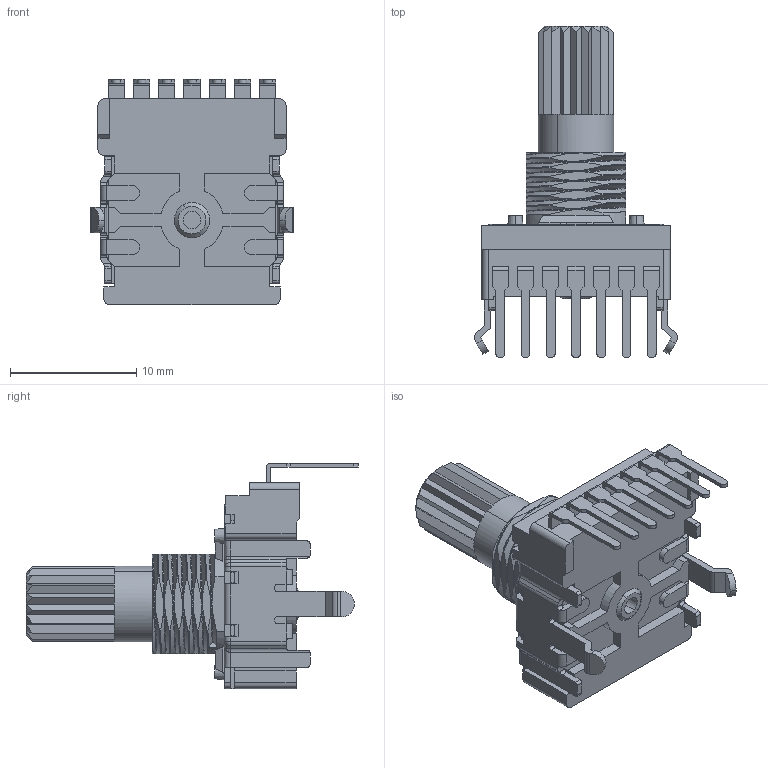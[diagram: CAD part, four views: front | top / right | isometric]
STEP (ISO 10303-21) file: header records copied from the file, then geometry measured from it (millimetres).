
FILE_DESCRIPTION (( 'STEP AP203' ), '1' );
FILE_NAME ('P140KH1-Y15.STEP', '2026-09-15T18:46:58', ( '' ), ( '' ), 'SwSTEP 2.0', 'SolidWorks 2026', '' );
FILE_SCHEMA (( 'CONFIG_CONTROL_DESIGN' ));
Length unit declared in the file: millimetre
Products named in the file (8): KH-housing; Housing; KH1 bracket; bushing; V-terminal; spring_plate; P140KH1-Y15; 1-Y15
Assembly tree (13 placements, depth 3):
  P140KH1-Y15
    KH-housing
      Housing
      V-terminal  x7
    1-Y15
    spring_plate
    bushing
    KH1 bracket
Bounding box: 16.1 x 26.3 x 17.85 mm (x, y, z)
Volume: 1534.5 mm3; surface area: 3087.5 mm2
Topology: 12 solids, 12 shells, 841 faces, 2270 edges, 1446 vertices
Faces by surface type: plane 509, cylinder 228, bspline 65, cone 33, sphere 4, torus 2
Entity records: 38066 total; most frequent: CARTESIAN_POINT 18759, ORIENTED_EDGE 4092, DIRECTION 3489, EDGE_CURVE 2046, VERTEX_POINT 1302, VECTOR 1265, LINE 1265, AXIS2_PLACEMENT_3D 1112
